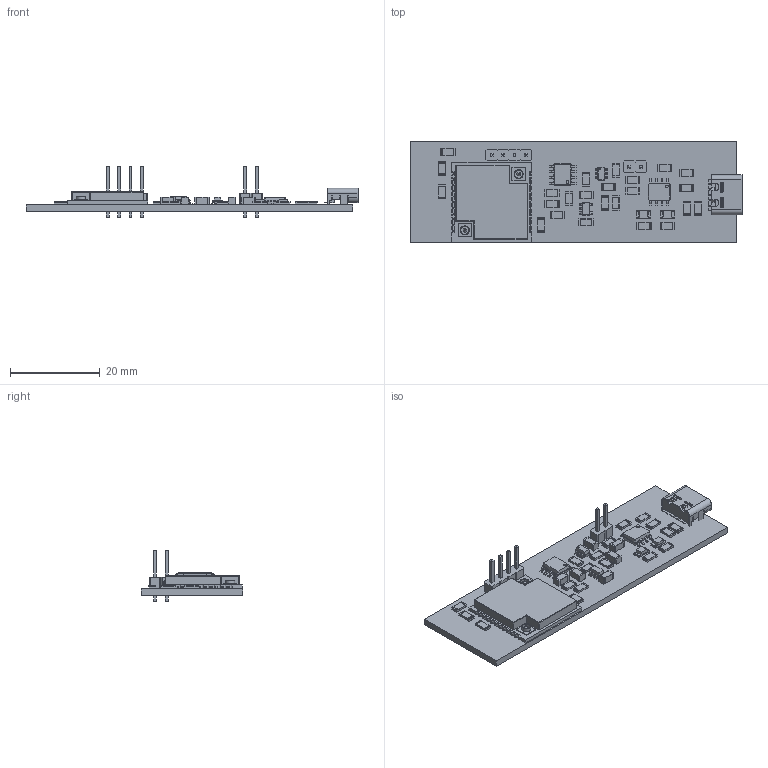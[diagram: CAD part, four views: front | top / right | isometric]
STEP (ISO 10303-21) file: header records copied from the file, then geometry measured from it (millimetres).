
FILE_DESCRIPTION(('KiCad electronic assembly'),'2;1');
FILE_NAME('HT_CT62 SSD1306.step','2026-03-10T23:17:22',('Pcbnew'),( 'Kicad'),'Open CASCADE STEP processor 7.9','KiCad to STEP converter' ,'Unknown');
FILE_SCHEMA(('AUTOMOTIVE_DESIGN { 1 0 10303 214 1 1 1 1 }'));
Length unit declared in the file: millimetre
Products named in the file (13): HT_CT62 SSD1306 1; R_1206_3216Metric; LED_1206_3216Metric; C_1206_3216Metric; SOT-23-6; modulo heltec ht62_; SOT-23-5; PinHeader_1x04_P2.54mm_Vertical; PinHeader_1x02_P2.54mm_Vertical; C-Type Female - 6-Pin SMD; SOIC-8_3.9x4.9mm_P1.27mm; SOIC-8-1EP_3.9x4.9mm_P1.27mm_EP2.29x3mm; HT_CT62 SSD1306_PCB
Assembly tree (35 placements, depth 2):
  HT_CT62 SSD1306 1
    R_1206_3216Metric  x18
    LED_1206_3216Metric  x2
    C_1206_3216Metric  x6
    SOT-23-6
    modulo heltec ht62_
    SOT-23-5
    PinHeader_1x04_P2.54mm_Vertical
    PinHeader_1x02_P2.54mm_Vertical
    C-Type Female - 6-Pin SMD
    SOIC-8_3.9x4.9mm_P1.27mm
    SOIC-8-1EP_3.9x4.9mm_P1.27mm_EP2.29x3mm
    HT_CT62 SSD1306_PCB
Bounding box: 73.95 x 22.7 x 11.54 mm (x, y, z)
Volume: 3579.6 mm3; surface area: 6423.1 mm2
Topology: 65 solids, 65 shells, 2051 faces, 5299 edges, 3407 vertices
Faces by surface type: plane 1427, cylinder 531, bspline 78, torus 9, sphere 6
Full cylindrical faces by diameter (mm): 0.2 x6, 0.8 x2, 1 x6, 1.8 x2, 2 x2
Entity records: 50130 total; most frequent: CARTESIAN_POINT 8221, ORIENTED_EDGE 7291, DIRECTION 6904, EDGE_CURVE 3646, LINE 2910, VECTOR 2910, VERTEX_POINT 2333, AXIS2_PLACEMENT_3D 1997
